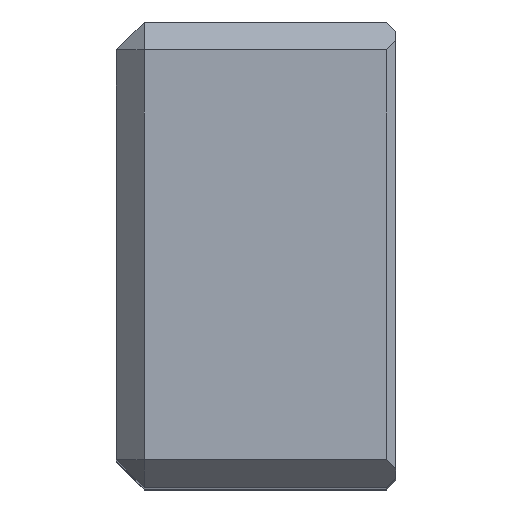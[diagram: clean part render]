
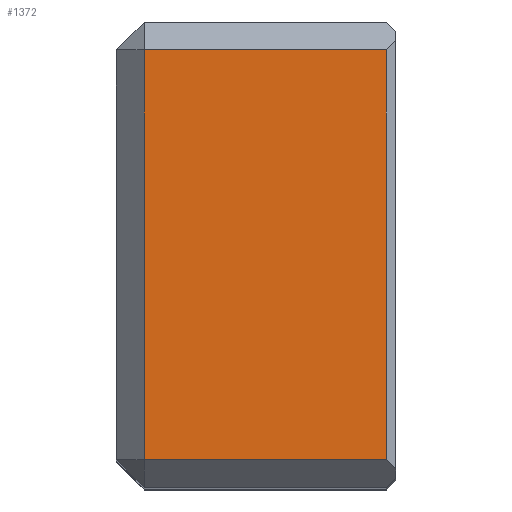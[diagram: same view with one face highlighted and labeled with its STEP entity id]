
A CAD part, top view. The second image highlights one B-rep face of the part: STEP entity #1372.
In plain terms, the highlighted planar face has unit normal (0, 0, 1).
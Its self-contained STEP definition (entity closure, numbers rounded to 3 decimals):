
#137=VERTEX_POINT(' ',#138);
#138=CARTESIAN_POINT('',(3.,22.,0.));
#141=VERTEX_POINT(' ',#142);
#142=CARTESIAN_POINT('',(3.,-22.,0.));
#167=VERTEX_POINT(' ',#168);
#168=CARTESIAN_POINT('',(29.,22.,0.));
#171=VERTEX_POINT(' ',#172);
#172=CARTESIAN_POINT('',(29.,-22.,0.));
#434=LINE('',#435,#436);
#435=CARTESIAN_POINT('',(3.,-41.971,0.));
#436=VECTOR('',#437,1.);
#437=DIRECTION('',(0.,1.,0.));
#438=EDGE_CURVE(' ',#141,#137,#434,.T.);
#554=LINE('',#555,#556);
#555=CARTESIAN_POINT('',(-13.971,22.,0.));
#556=VECTOR('',#557,1.);
#557=DIRECTION('',(1.,0.,0.));
#558=EDGE_CURVE(' ',#137,#167,#554,.T.);
#559=LINE('',#560,#561);
#560=CARTESIAN_POINT('',(29.,27.657,0.));
#561=VECTOR('',#562,1.);
#562=DIRECTION('',(0.,-1.,0.));
#563=EDGE_CURVE(' ',#167,#171,#559,.T.);
#564=LINE('',#565,#566);
#565=CARTESIAN_POINT('',(46.971,-22.,0.));
#566=VECTOR('',#567,1.);
#567=DIRECTION('',(-1.,0.,0.));
#568=EDGE_CURVE(' ',#171,#141,#564,.T.);
#1361=ORIENTED_EDGE('',*,*,#563,.F.);
#1362=ORIENTED_EDGE('',*,*,#558,.F.);
#1363=ORIENTED_EDGE('',*,*,#438,.F.);
#1364=ORIENTED_EDGE('',*,*,#568,.F.);
#1365=EDGE_LOOP('',(#1361,#1362,#1363,#1364));
#1366=FACE_OUTER_BOUND('',#1365,.T.);
#1367=PLANE('',#1368);
#1368=AXIS2_PLACEMENT_3D('',#1369,#1370,#1371);
#1369=CARTESIAN_POINT('',(0.,-25.,0.));
#1370=DIRECTION('',(0.,0.,1.));
#1371=DIRECTION('',(0.,1.,0.));
#1372=ADVANCED_FACE('',(#1366),#1367,.T.);
